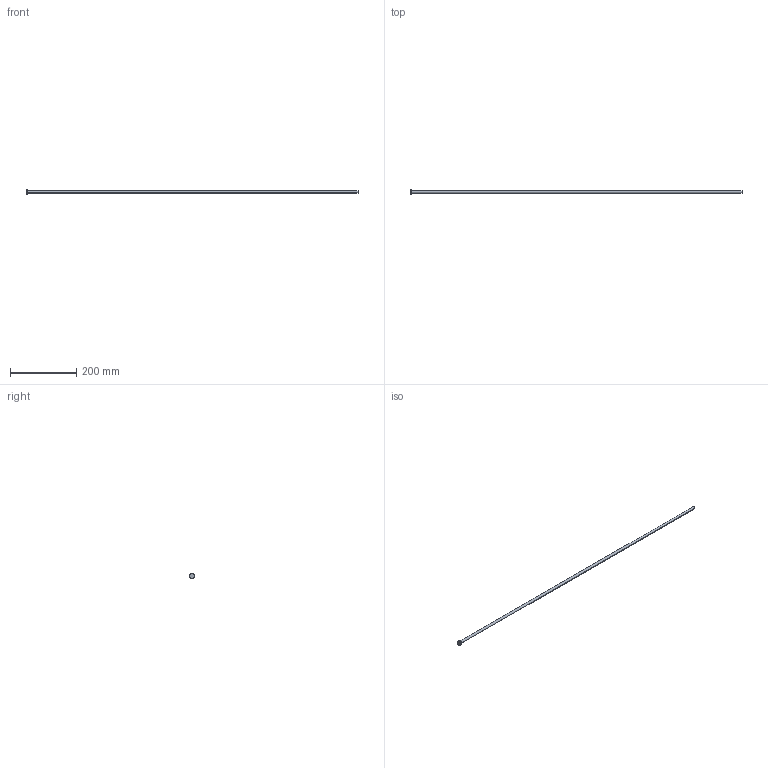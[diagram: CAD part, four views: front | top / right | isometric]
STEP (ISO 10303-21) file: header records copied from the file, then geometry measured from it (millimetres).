
FILE_DESCRIPTION (( 'STEP AP214' ), '1' );
FILE_NAME ('A-8x1000.STEP', '2020-05-29T15:55:33', ( 'August' ), ( '' ), 'SwSTEP 2.0', 'SolidWorks 2018', '' );
FILE_SCHEMA (( 'AUTOMOTIVE_DESIGN' ));
Length unit declared in the file: millimetre
Products named in the file (1): A-8x1000
Bounding box: 1000 x 14 x 14 mm (x, y, z)
Volume: 50785.2 mm3; surface area: 25529.6 mm2
Topology: 1 solids, 1 shells, 9 faces, 16 edges, 10 vertices
Faces by surface type: cylinder 4, plane 3, torus 2
Entity records: 260 total; most frequent: DIRECTION 48, CARTESIAN_POINT 36, ORIENTED_EDGE 32, AXIS2_PLACEMENT_3D 22, EDGE_CURVE 16, CIRCLE 12, EDGE_LOOP 10, VERTEX_POINT 10
